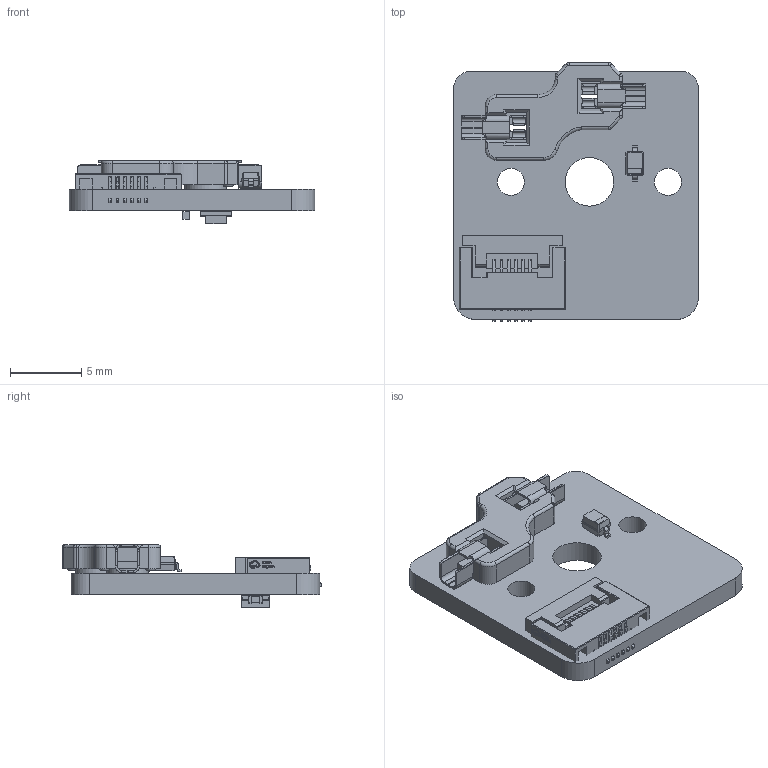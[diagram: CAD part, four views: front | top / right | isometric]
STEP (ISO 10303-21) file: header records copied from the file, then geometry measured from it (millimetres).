
FILE_DESCRIPTION(('KiCad electronic assembly'),'2;1');
FILE_NAME('FPC-assembly.step','2026-10-01T14:53:48',('Pcbnew'),('Kicad') ,'Open CASCADE STEP processor 7.9','KiCad to STEP converter','Unknown' );
FILE_SCHEMA(('AUTOMOTIVE_DESIGN { 1 0 10303 214 1 1 1 1 }'));
Length unit declared in the file: millimetre
Products named in the file (19): FPC-assembly 1; D_SOD-323; FPC-SMD_6P-P0.50_HC-FPC-0.5-6P-FH20; HS_CPG135001S30_Choc; pin; socket; LED_WS2812B-2020_2.2x2.0x0.84mm; substrate; optical encapsulation; solder terminal; IC depiction; red die depiction; green die depiction; blue die depiction; C_0402_1005Metric; AdafruitNeoKeyChocSocketBreakout_PCB
Assembly tree (19 placements, depth 3):
  FPC-assembly 1
    D_SOD-323
    FPC-SMD_6P-P0.50_HC-FPC-0.5-6P-FH20
    HS_CPG135001S30_Choc
      pin  x2
      socket
    LED_WS2812B-2020_2.2x2.0x0.84mm
      substrate
      optical encapsulation
      solder terminal
      solder terminal
      solder terminal
      solder terminal
      IC depiction
      red die depiction
      green die depiction
      blue die depiction
    C_0402_1005Metric
    AdafruitNeoKeyChocSocketBreakout_PCB
Bounding box: 17.17 x 18.12 x 4.48 mm (x, y, z)
Volume: 535.1 mm3; surface area: 1302.9 mm2
Topology: 26 solids, 26 shells, 1042 faces, 2738 edges, 1761 vertices
Faces by surface type: plane 698, cylinder 166, bspline 158, torus 10, cone 10
Full cylindrical faces by diameter (mm): 1.9 x2, 2.9 x2, 3 x2, 3.4 x1
Entity records: 34858 total; most frequent: CARTESIAN_POINT 6997, ORIENTED_EDGE 5004, DIRECTION 4179, EDGE_CURVE 2502, LINE 1921, VECTOR 1921, VERTEX_POINT 1615, AXIS2_PLACEMENT_3D 1129
